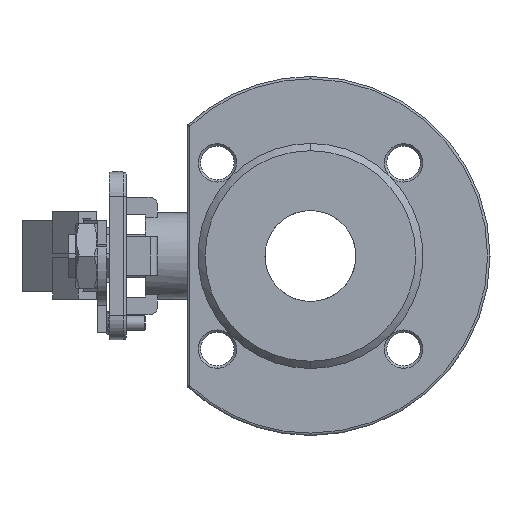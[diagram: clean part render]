
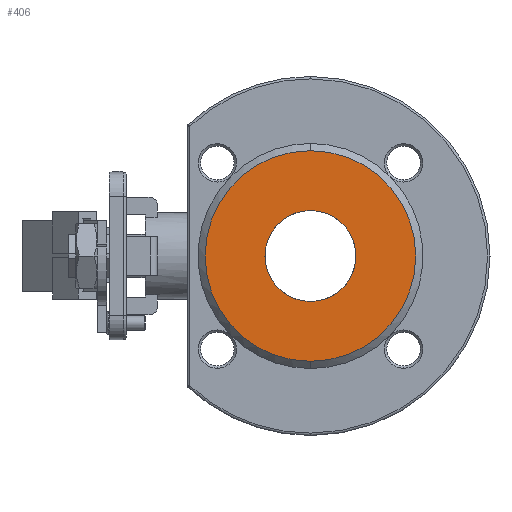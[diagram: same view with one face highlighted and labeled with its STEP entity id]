
A CAD part, left-side view. The second image highlights one B-rep face of the part: STEP entity #406.
In plain terms, the highlighted planar face has unit normal (-1, 0, 0).
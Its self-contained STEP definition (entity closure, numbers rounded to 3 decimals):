
#406 = ADVANCED_FACE ( 'NONE', ( #3588, #19238 ), #10149, .T. ) ;
#407 = CARTESIAN_POINT ( 'NONE',  ( -32.5, 0., 0. ) ) ;
#867 = ORIENTED_EDGE ( 'NONE', *, *, #7603, .F. ) ;
#2100 = VERTEX_POINT ( 'NONE', #11763 ) ;
#3588 = FACE_BOUND ( 'NONE', #11192, .T. ) ;
#3661 = AXIS2_PLACEMENT_3D ( 'NONE', #407, #13583, #6154 ) ;
#3788 = ORIENTED_EDGE ( 'NONE', *, *, #9013, .F. ) ;
#4451 = CARTESIAN_POINT ( 'NONE',  ( -32.5, 0., -44. ) ) ;
#5436 = CIRCLE ( 'NONE', #3661, 44. ) ;
#5864 = CARTESIAN_POINT ( 'NONE',  ( -32.5, 0., 0. ) ) ;
#6154 = DIRECTION ( 'NONE',  ( 0., 0., 1. ) ) ;
#6618 = EDGE_CURVE ( 'NONE', #2100, #14422, #9598, .T. ) ;
#7581 = DIRECTION ( 'NONE',  ( 0., 0., 1. ) ) ;
#7603 = EDGE_CURVE ( 'NONE', #11840, #23671, #5436, .T. ) ;
#8307 = CIRCLE ( 'NONE', #16747, 19. ) ;
#8334 = DIRECTION ( 'NONE',  ( 0., 0., 1. ) ) ;
#9013 = EDGE_CURVE ( 'NONE', #14422, #2100, #8307, .T. ) ;
#9298 = AXIS2_PLACEMENT_3D ( 'NONE', #5864, #24379, #18841 ) ;
#9598 = CIRCLE ( 'NONE', #9298, 19. ) ;
#10073 = DIRECTION ( 'NONE',  ( 0., 0., 1. ) ) ;
#10149 = PLANE ( 'NONE',  #14592 ) ;
#11192 = EDGE_LOOP ( 'NONE', ( #18615, #3788 ) ) ;
#11633 = DIRECTION ( 'NONE',  ( -1., 0., 0. ) ) ;
#11763 = CARTESIAN_POINT ( 'NONE',  ( -32.5, 0., 19. ) ) ;
#11840 = VERTEX_POINT ( 'NONE', #20568 ) ;
#12204 = AXIS2_PLACEMENT_3D ( 'NONE', #23445, #19404, #8334 ) ;
#12999 = EDGE_LOOP ( 'NONE', ( #20203, #867 ) ) ;
#13583 = DIRECTION ( 'NONE',  ( 1., 0., 0. ) ) ;
#13944 = DIRECTION ( 'NONE',  ( -1., 0., 0. ) ) ;
#14422 = VERTEX_POINT ( 'NONE', #20080 ) ;
#14592 = AXIS2_PLACEMENT_3D ( 'NONE', #21292, #13944, #10073 ) ;
#15174 = EDGE_CURVE ( 'NONE', #23671, #11840, #15487, .T. ) ;
#15430 = CARTESIAN_POINT ( 'NONE',  ( -32.5, 0., 0. ) ) ;
#15487 = CIRCLE ( 'NONE', #12204, 44. ) ;
#16747 = AXIS2_PLACEMENT_3D ( 'NONE', #15430, #11633, #7581 ) ;
#18615 = ORIENTED_EDGE ( 'NONE', *, *, #6618, .F. ) ;
#18841 = DIRECTION ( 'NONE',  ( 0., 0., 1. ) ) ;
#19238 = FACE_OUTER_BOUND ( 'NONE', #12999, .T. ) ;
#19404 = DIRECTION ( 'NONE',  ( 1., 0., 0. ) ) ;
#20080 = CARTESIAN_POINT ( 'NONE',  ( -32.5, 0., -19. ) ) ;
#20203 = ORIENTED_EDGE ( 'NONE', *, *, #15174, .F. ) ;
#20568 = CARTESIAN_POINT ( 'NONE',  ( -32.5, 0., 44. ) ) ;
#21292 = CARTESIAN_POINT ( 'NONE',  ( -32.5, 0., 0. ) ) ;
#23445 = CARTESIAN_POINT ( 'NONE',  ( -32.5, 0., 0. ) ) ;
#23671 = VERTEX_POINT ( 'NONE', #4451 ) ;
#24379 = DIRECTION ( 'NONE',  ( -1., 0., 0. ) ) ;
